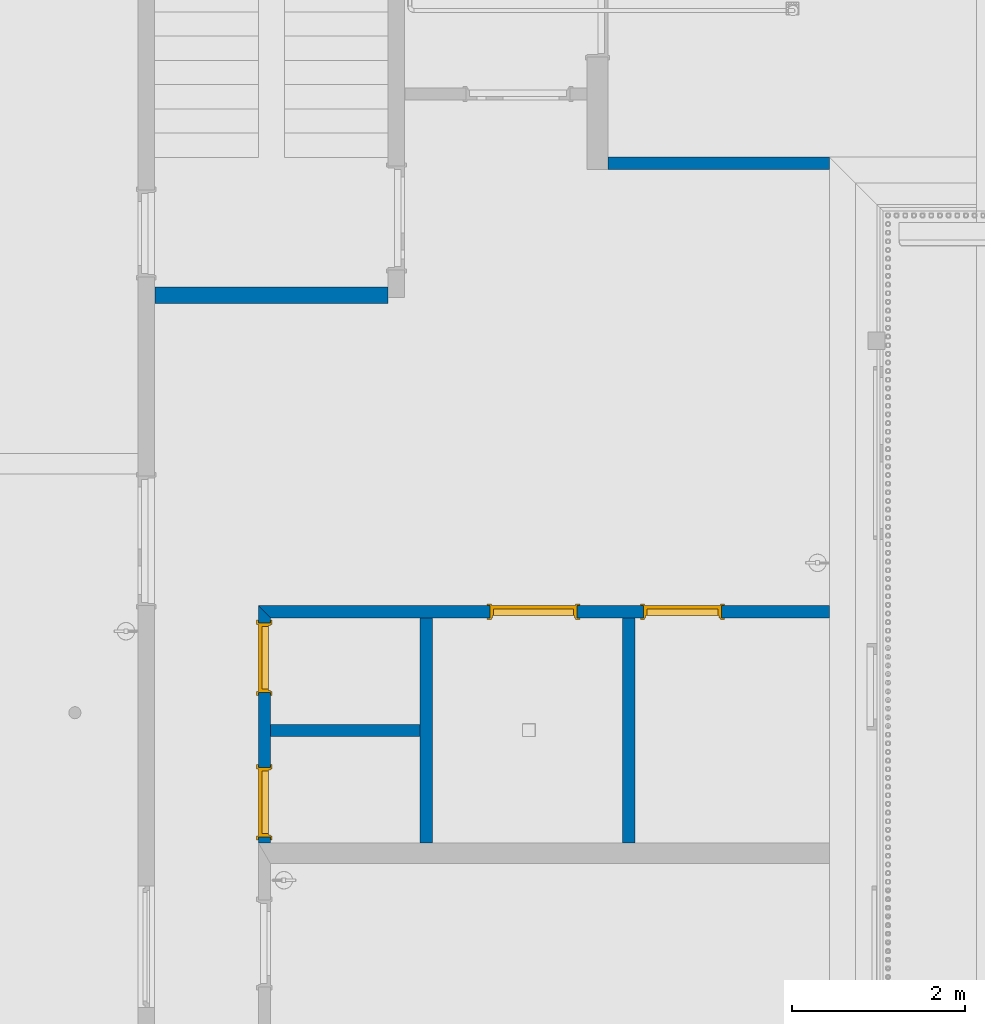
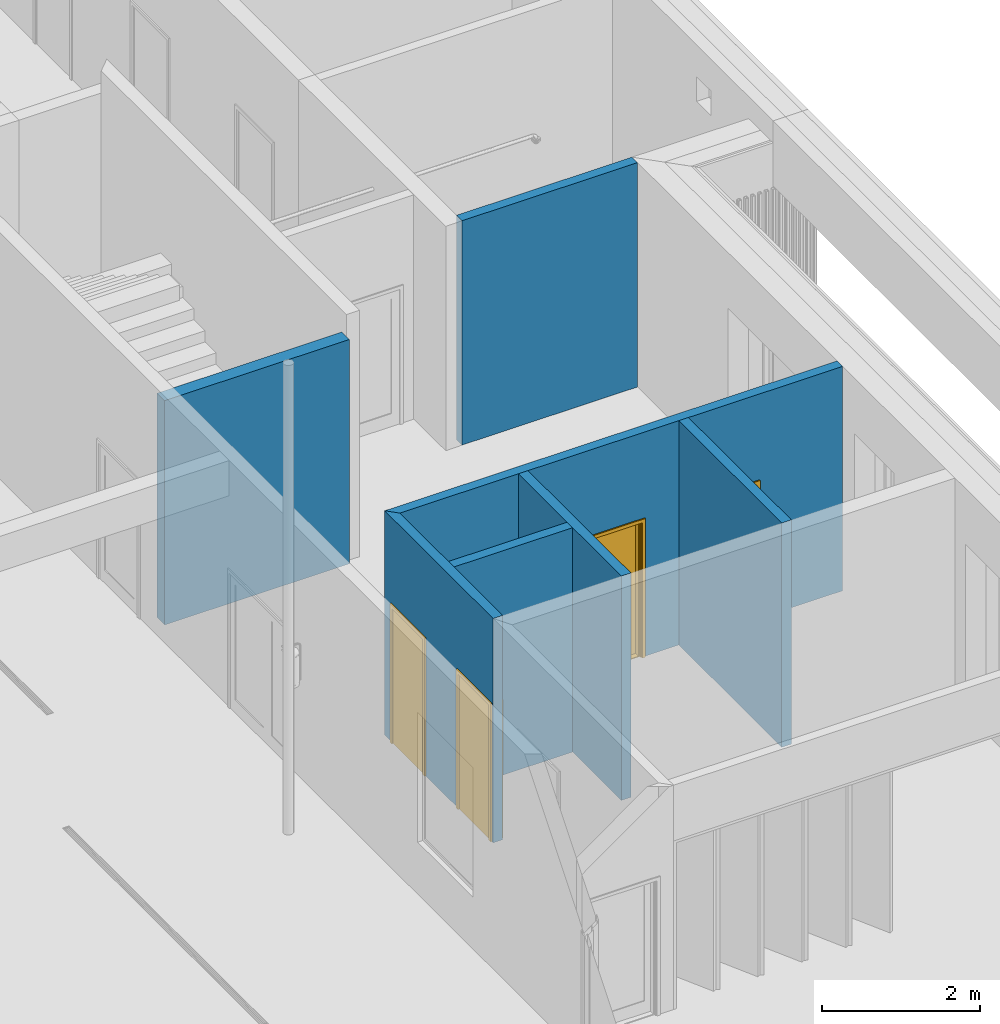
# One storey, part 13 of 112: 7 walls, 4 doors, 4 openings.
"""IFC2X3 building model written with IfcOpenShell, lengths in millimetres."""

from ifc_helpers import new_model, entity, si_unit, converted_unit, derived_unit, money_unit, direction, frame, origin_with_axes, origin_2d_with_axis, place, context, subcontext, project, spatial, polyline, rectangle, outline, extrude, faceted_brep, source, transform, mapped, material, layer, layer_set, layer_usage, type_object, element, fill, save


model = new_model("IFC2X3")

# Units and contexts
model_context = context("Model", 3, precision=0.01, world=origin_with_axes(), true_north=direction((0.0, 1.0)))
body_context = subcontext(model_context, "Body", "Model", "MODEL_VIEW")
ifc_project = project(units=[si_unit("LENGTHUNIT", "METRE", prefix="MILLI"), si_unit("AREAUNIT", "SQUARE_METRE"), si_unit("VOLUMEUNIT", "CUBIC_METRE"), converted_unit("PLANEANGLEUNIT", "DEGREE", entity("IfcPlaneAngleMeasure", 0.0174532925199), si_unit("PLANEANGLEUNIT", "RADIAN"), dimensions=[0, 0, 0, 0, 0, 0, 0]), si_unit("SOLIDANGLEUNIT", "STERADIAN"), money_unit("EUR"), converted_unit("TIMEUNIT", "Year", entity("IfcTimeMeasure", 31556926.0), si_unit("TIMEUNIT", "SECOND"), dimensions=[0, 0, 1, 0, 0, 0, 0]), si_unit("MASSUNIT", "GRAM", prefix="KILO"), si_unit("THERMODYNAMICTEMPERATUREUNIT", "DEGREE_CELSIUS"), si_unit("LUMINOUSINTENSITYUNIT", "LUMEN"), si_unit("ENERGYUNIT", "JOULE", prefix="MEGA"), derived_unit("THERMALCONDUCTANCEUNIT", [(si_unit("POWERUNIT", "WATT"), 1), (si_unit("LENGTHUNIT", "METRE"), -1), (si_unit("THERMODYNAMICTEMPERATUREUNIT", "KELVIN"), -1)]), derived_unit("SPECIFICHEATCAPACITYUNIT", [(si_unit("ENERGYUNIT", "JOULE"), 1), (si_unit("MASSUNIT", "GRAM", prefix="KILO"), -1), (si_unit("THERMODYNAMICTEMPERATUREUNIT", "KELVIN"), -1)]), derived_unit("MASSDENSITYUNIT", [(si_unit("MASSUNIT", "GRAM", prefix="KILO"), 1), (si_unit("VOLUMEUNIT", "CUBIC_METRE"), -1)])], contexts=[model_context])

# Site, building, storey
site_placement = place(None, origin_with_axes())
site = spatial("IfcSite", under=ifc_project, at=site_placement, Name="Politse- ja Piirivalveameti ning Päästeameti ühishoone", CompositionType="ELEMENT")
building_placement = place(site_placement, origin_with_axes())
building = spatial("IfcBuilding", under=site, at=building_placement, Name="Politse- ja Piirivalveameti ning Päästeameti ühishoone", CompositionType="ELEMENT")
storey_placement = place(building_placement, origin_with_axes())
storey = spatial("IfcBuildingStorey", under=building, at=storey_placement, Name="Esimene korrus", CompositionType="ELEMENT", Elevation=0.0)

# Walls
ifc_material = material(Name="KON-05_Betoon Plokk - Konstuktsioon")
ifc_layer_1 = layer(ifc_material, 190.0, ventilated="UNKNOWN")
ifc_layer_set_1 = layer_set([ifc_layer_1], Name="SS-03_Sisesein 190")
ifc_layer_usage_1 = layer_usage(ifc_layer_set_1, "AXIS2", "NEGATIVE", 0.0)
wall_type_1 = type_object("IfcWallType", Name="SS-03_Sisesein 190 190", PredefinedType="NOTDEFINED")
wall_1_placement = place(storey_placement, frame((60160.5519118, 14919.9520832, 0.0), z_axis=(0.0, 0.0, 1.0), x_axis=(1.0, 0.0, 0.0)))
element("IfcWallStandardCase", 1, at=wall_1_placement, inside=storey, type_object=wall_type_1, material=ifc_layer_usage_1, Name="SS-03", context=body_context, shape_type="SweptSolid", body=[
    extrude(outline(polyline([(5.0, -190.0), (2700.00534722, -190.0), (2700.00534722, 0.0), (5.0, 0.0), (5.0, -190.0)])), origin_with_axes(), (0.0, 0.0, 1.0), 3460.0),
])
ifc_layer_2 = layer(ifc_material, 140.0, ventilated="UNKNOWN")
ifc_layer_set_2 = layer_set([ifc_layer_2], Name="SS-02_Sisesein 140")
ifc_layer_usage_2 = layer_usage(ifc_layer_set_2, "AXIS2", "POSITIVE", -140.0)
wall_type_2 = type_object("IfcWallType", Name="SS-02_Sisesein 140 140", PredefinedType="NOTDEFINED")
wall_2_placement = place(storey_placement, frame((65570.5638285, 8500.01298611, 0.0), z_axis=(0.0, 0.0, 1.0), x_axis=(0.0, 1.0, 0.0)))
element("IfcWallStandardCase", 2, at=wall_2_placement, inside=storey, type_object=wall_type_2, material=ifc_layer_usage_2, Name="SS-02", context=body_context, shape_type="SweptSolid", body=[
    extrude(outline(polyline([(0.0, -140.0), (2600.0, -140.0), (2600.0, 0.0), (0.0, 0.0), (0.0, -140.0)])), origin_with_axes(), (0.0, 0.0, 1.0), 3460.0),
])
ifc_layer_usage_3 = layer_usage(ifc_layer_set_2, "AXIS2", "NEGATIVE", 140.0)
wall_3_placement = place(storey_placement, frame((67960.5638285, 16422.809139, 0.0), z_axis=(0.0, 0.0, 1.0), x_axis=(-1.0, 0.0, 0.0)))
element("IfcWallStandardCase", 3, at=wall_3_placement, inside=storey, type_object=wall_type_2, material=ifc_layer_usage_3, Name="SS-02", context=body_context, shape_type="SweptSolid", body=[
    extrude(outline(polyline([(0.0, 0.0), (2560.00427778, 0.0), (2560.00427778, 140.0), (0.0, 140.0), (0.0, 0.0)])), origin_with_axes(), (0.0, 0.0, 1.0), 3460.0),
])

# Wall, openings, doors
ifc_layer_usage_4 = layer_usage(ifc_layer_set_2, "AXIS2", "NEGATIVE", 0.0)
wall_4_placement = place(storey_placement, frame((67960.5638285, 11100.0129861, 0.0), z_axis=(0.0, 0.0, 1.0), x_axis=(-1.0, 0.0, 0.0)))
wall_4 = element("IfcWallStandardCase", 4, at=wall_4_placement, inside=storey, type_object=wall_type_2, material=ifc_layer_usage_4, Name="SS-02", context=body_context, shape_type="SweptSolid", body=[
    extrude(outline(polyline([(0.0, -140.0), (6600.01191667, -140.0), (6460.01191667, 0.0), (0.0, 0.0), (0.0, -140.0)])), origin_with_axes(), (0.0, 0.0, 1.0), 3460.0),
])
opening_1_placement = place(wall_4_placement, frame((3420.93126529, 0.0, 0.0), z_axis=(0.0, 0.0, 1.0), x_axis=(1.0, 0.0, 0.0)))
opening_1 = element("IfcOpeningElement", 5, at=opening_1_placement, cuts=wall_4, Name="SU-02-4", context=body_context, shape_type="SweptSolid", body=[
    extrude(rectangle(XDim=1000.0, YDim=2100.0, at=origin_2d_with_axis()), frame((0.0, 140.0, 1050.0), z_axis=(0.0, 1.0, 0.0), x_axis=(1.0, 0.0, 0.0)), (0.0, 0.0, -1.0), 420.0),
    extrude(rectangle(XDim=1074.0, YDim=2137.0, at=origin_2d_with_axis()), frame((0.0, 0.0, 1068.5), z_axis=(0.0, 1.0, 0.0), x_axis=(1.0, 0.0, 0.0)), (0.0, 0.0, 1.0), 140.0),
    extrude(rectangle(XDim=1074.0, YDim=2137.0, at=origin_2d_with_axis()), frame((0.0, -140.0, 1068.5), z_axis=(0.0, -1.0, 0.0), x_axis=(1.0, 0.0, 0.0)), (0.0, 0.0, 1.0), 140.0),
])
opening_2_placement = place(wall_4_placement, frame((1700.0, 0.0, 0.0), z_axis=(0.0, 0.0, 1.0), x_axis=(1.0, 0.0, 0.0)))
opening_2 = element("IfcOpeningElement", 6, at=opening_2_placement, cuts=wall_4, Name="SU-01-1", context=body_context, shape_type="SweptSolid", body=[
    extrude(rectangle(XDim=900.0, YDim=2100.0, at=origin_2d_with_axis()), frame((0.0, 140.0, 1050.0), z_axis=(0.0, 1.0, 0.0), x_axis=(1.0, 0.0, 0.0)), (0.0, 0.0, -1.0), 420.0),
    extrude(rectangle(XDim=974.0, YDim=2137.0, at=origin_2d_with_axis()), frame((0.0, 0.0, 1068.5), z_axis=(0.0, 1.0, 0.0), x_axis=(1.0, 0.0, 0.0)), (0.0, 0.0, 1.0), 140.0),
    extrude(rectangle(XDim=974.0, YDim=2137.0, at=origin_2d_with_axis()), frame((0.0, -140.0, 1068.5), z_axis=(0.0, -1.0, 0.0), x_axis=(1.0, 0.0, 0.0)), (0.0, 0.0, 1.0), 140.0),
])
door_style_1 = type_object("IfcDoorStyle", Name="Door 23", ConstructionType="NOTDEFINED", OperationType="SINGLE_SWING_LEFT", ParameterTakesPrecedence=False, Sizeable=False)
shared_shape_1 = source(origin_with_axes(), body_context, "Body", "Brep", [
    faceted_brep([(-472.0, -40.0, 0.0), (-460.0, -40.0, 0.0), (-460.0, -40.0, 12.0), (-472.0, -40.0, 12.0), (472.0, -40.0, 0.0), (460.0, -40.0, 0.0), (460.0, -115.0, 0.0), (-460.0, -115.0, 0.0), (-460.0, -115.0, 12.0), (460.0, -115.0, 12.0), (460.0, -40.0, 12.0), (472.0, -40.0, 12.0)], [[[0, 1, 2, 3]], [[0, 4, 5, 6, 7, 1]], [[1, 7, 8, 2]], [[3, 2, 8, 9, 10, 11]], [[4, 0, 3, 11]], [[5, 4, 11, 10]], [[6, 5, 10, 9]], [[7, 6, 9, 8]]]),
    faceted_brep([(500.0, -115.0, 0.0), (500.0, -140.0, 0.0), (475.0, -140.0, 0.0), (475.0, -115.0, 0.0), (500.0, -115.0, 2100.0), (500.0, -140.0, 2100.0), (475.0, -140.0, 2075.0), (475.0, -115.0, 2075.0)], [[[0, 1, 2, 3]], [[4, 5, 1, 0]], [[1, 5, 6, 2]], [[3, 2, 6, 7]], [[0, 3, 7, 4]], [[7, 6, 5, 4]]]),
    faceted_brep([(-500.0, -115.0, 2100.0), (-500.0, -140.0, 2100.0), (-475.0, -140.0, 2075.0), (-475.0, -115.0, 2075.0), (-500.0, -115.0, 0.0), (-500.0, -140.0, 0.0), (-475.0, -140.0, 0.0), (-475.0, -115.0, 0.0)], [[[0, 1, 2, 3]], [[4, 5, 1, 0]], [[1, 5, 6, 2]], [[3, 2, 6, 7]], [[0, 3, 7, 4]], [[7, 6, 5, 4]]]),
    faceted_brep([(475.0, -115.0, 2075.0), (475.0, -140.0, 2075.0), (-475.0, -140.0, 2075.0), (-475.0, -115.0, 2075.0), (500.0, -115.0, 2100.0), (500.0, -140.0, 2100.0), (-500.0, -140.0, 2100.0), (-500.0, -115.0, 2100.0)], [[[0, 1, 2, 3]], [[4, 5, 1, 0]], [[1, 5, 6, 2]], [[3, 2, 6, 7]], [[0, 3, 7, 4]], [[7, 6, 5, 4]]]),
    faceted_brep([(537.0, -159.0, 0.0), (487.0, -159.0, 0.0), (487.0, -140.0, 0.0), (537.0, -140.0, 0.0), (537.0, -159.0, 2137.0), (487.0, -159.0, 2087.0), (487.0, -140.0, 2087.0), (537.0, -140.0, 2137.0)], [[[0, 1, 2, 3]], [[0, 4, 5, 1]], [[1, 5, 6, 2]], [[3, 2, 6, 7]], [[4, 0, 3, 7]], [[5, 4, 7, 6]]]),
    faceted_brep([(-537.0, -159.0, 2137.0), (-487.0, -159.0, 2087.0), (-487.0, -140.0, 2087.0), (-537.0, -140.0, 2137.0), (-537.0, -159.0, 0.0), (-487.0, -159.0, 0.0), (-487.0, -140.0, 0.0), (-537.0, -140.0, 0.0)], [[[0, 1, 2, 3]], [[0, 4, 5, 1]], [[1, 5, 6, 2]], [[3, 2, 6, 7]], [[4, 0, 3, 7]], [[5, 4, 7, 6]]]),
    faceted_brep([(537.0, -159.0, 2137.0), (487.0, -159.0, 2087.0), (487.0, -140.0, 2087.0), (537.0, -140.0, 2137.0), (-537.0, -159.0, 2137.0), (-487.0, -159.0, 2087.0), (-487.0, -140.0, 2087.0), (-537.0, -140.0, 2137.0)], [[[0, 1, 2, 3]], [[0, 4, 5, 1]], [[1, 5, 6, 2]], [[3, 2, 6, 7]], [[4, 0, 3, 7]], [[5, 4, 7, 6]]]),
    faceted_brep([(537.0, 19.0, 0.0), (537.0, 0.0, 0.0), (487.0, 0.0, 0.0), (487.0, 19.0, 0.0), (537.0, 19.0, 2137.0), (537.0, 0.0, 2137.0), (487.0, 0.0, 2087.0), (487.0, 19.0, 2087.0)], [[[0, 1, 2, 3]], [[4, 5, 1, 0]], [[1, 5, 6, 2]], [[3, 2, 6, 7]], [[0, 3, 7, 4]], [[7, 6, 5, 4]]]),
    faceted_brep([(-537.0, 19.0, 2137.0), (-537.0, 0.0, 2137.0), (-487.0, 0.0, 2087.0), (-487.0, 19.0, 2087.0), (-537.0, 19.0, 0.0), (-537.0, 0.0, 0.0), (-487.0, 0.0, 0.0), (-487.0, 19.0, 0.0)], [[[0, 1, 2, 3]], [[4, 5, 1, 0]], [[1, 5, 6, 2]], [[3, 2, 6, 7]], [[0, 3, 7, 4]], [[7, 6, 5, 4]]]),
    faceted_brep([(537.0, 19.0, 2137.0), (537.0, 0.0, 2137.0), (487.0, 0.0, 2087.0), (487.0, 19.0, 2087.0), (-537.0, 19.0, 2137.0), (-537.0, 0.0, 2137.0), (-487.0, 0.0, 2087.0), (-487.0, 19.0, 2087.0)], [[[0, 1, 2, 3]], [[4, 5, 1, 0]], [[1, 5, 6, 2]], [[3, 2, 6, 7]], [[0, 3, 7, 4]], [[7, 6, 5, 4]]]),
    faceted_brep([(460.0, -40.0, 0.0), (460.0, -115.0, 0.0), (460.0, -115.0, 2060.0), (460.0, -40.0, 2060.0), (472.0, -40.0, 0.0), (472.0, 0.0, 0.0), (500.0, 0.0, 0.0), (500.0, -115.0, 0.0), (500.0, -115.0, 2060.0), (472.0, -40.0, 2060.0), (500.0, 0.0, 2060.0), (472.0, 0.0, 2060.0)], [[[0, 1, 2, 3]], [[4, 5, 6, 7, 1, 0]], [[1, 7, 8, 2]], [[9, 3, 2, 8, 10, 11]], [[9, 4, 0, 3]], [[11, 5, 4, 9]], [[11, 10, 6, 5]], [[6, 10, 8, 7]]]),
    faceted_brep([(-472.0, -40.0, 2060.0), (-472.0, 0.0, 2060.0), (-500.0, 0.0, 2060.0), (-500.0, -115.0, 2060.0), (-460.0, -115.0, 2060.0), (-460.0, -40.0, 2060.0), (-472.0, -40.0, 0.0), (-472.0, 0.0, 0.0), (-500.0, 0.0, 0.0), (-500.0, -115.0, 0.0), (-460.0, -115.0, 0.0), (-460.0, -40.0, 0.0)], [[[0, 1, 2, 3, 4, 5]], [[0, 6, 7, 1]], [[7, 8, 2, 1]], [[2, 8, 9, 3]], [[3, 9, 10, 4]], [[5, 4, 10, 11]], [[5, 11, 6, 0]], [[6, 11, 10, 9, 8, 7]]]),
    faceted_brep([(472.0, 0.0, 2072.0), (-472.0, 0.0, 2072.0), (-472.0, 0.0, 2060.0), (-500.0, 0.0, 2060.0), (-500.0, 0.0, 2100.0), (500.0, 0.0, 2100.0), (500.0, 0.0, 2060.0), (472.0, 0.0, 2060.0), (472.0, -40.0, 2072.0), (-472.0, -40.0, 2072.0), (-472.0, -40.0, 2060.0), (-460.0, -40.0, 2060.0), (-460.0, -115.0, 2060.0), (-500.0, -115.0, 2060.0), (-500.0, -115.0, 2100.0), (500.0, -115.0, 2100.0), (500.0, -115.0, 2060.0), (472.0, -40.0, 2060.0), (460.0, -115.0, 2060.0), (460.0, -40.0, 2060.0)], [[[0, 1, 2, 3, 4, 5, 6, 7]], [[0, 8, 9, 1]], [[1, 9, 10, 2]], [[10, 11, 12, 13, 3, 2]], [[4, 3, 13, 14]], [[5, 4, 14, 15]], [[6, 5, 15, 16]], [[17, 7, 6, 16, 18, 19]], [[7, 17, 8, 0]], [[10, 9, 8, 17, 19, 11]], [[19, 18, 12, 11]], [[12, 18, 16, 15, 14, 13]]]),
    faceted_brep([(-472.0, 0.0, 0.0), (472.0, 0.0, 0.0), (472.0, -40.0, 0.0), (-472.0, -40.0, 0.0), (-472.0, 0.0, 2072.0), (472.0, 0.0, 2072.0), (472.0, -40.0, 2072.0), (-472.0, -40.0, 2072.0)], [[[0, 1, 2, 3]], [[0, 4, 5, 1]], [[1, 5, 6, 2]], [[3, 2, 6, 7]], [[4, 0, 3, 7]], [[5, 4, 7, 6]]]),
])
door_1_placement = place(opening_1_placement, frame((500.0, 0.0, 0.0), z_axis=(0.0, 0.0, 1.0), x_axis=(-1.0, 0.0, 0.0)))
door_1 = element("IfcDoor", 7, at=door_1_placement, inside=storey, type_object=door_style_1, Name="SU-02-4", ObjectType="DOOR", OverallHeight=2100.0, OverallWidth=1000.0, context=body_context, shape_type="MappedRepresentation", body=[
    mapped(shared_shape_1, transform((500.0, 140.0, 0.0))),
])
fill(opening_1, door_1)
shared_shape_2 = source(origin_with_axes(), body_context, "Body", "Brep", [
    faceted_brep([(-422.0, -40.0, 0.0), (-410.0, -40.0, 0.0), (-410.0, -40.0, 12.0), (-422.0, -40.0, 12.0), (422.0, -40.0, 0.0), (410.0, -40.0, 0.0), (410.0, -115.0, 0.0), (-410.0, -115.0, 0.0), (-410.0, -115.0, 12.0), (410.0, -115.0, 12.0), (410.0, -40.0, 12.0), (422.0, -40.0, 12.0)], [[[0, 1, 2, 3]], [[0, 4, 5, 6, 7, 1]], [[1, 7, 8, 2]], [[3, 2, 8, 9, 10, 11]], [[4, 0, 3, 11]], [[5, 4, 11, 10]], [[6, 5, 10, 9]], [[7, 6, 9, 8]]]),
    faceted_brep([(450.0, -115.0, 0.0), (450.0, -140.0, 0.0), (425.0, -140.0, 0.0), (425.0, -115.0, 0.0), (450.0, -115.0, 2100.0), (450.0, -140.0, 2100.0), (425.0, -140.0, 2075.0), (425.0, -115.0, 2075.0)], [[[0, 1, 2, 3]], [[4, 5, 1, 0]], [[1, 5, 6, 2]], [[3, 2, 6, 7]], [[0, 3, 7, 4]], [[7, 6, 5, 4]]]),
    faceted_brep([(-450.0, -115.0, 2100.0), (-450.0, -140.0, 2100.0), (-425.0, -140.0, 2075.0), (-425.0, -115.0, 2075.0), (-450.0, -115.0, 0.0), (-450.0, -140.0, 0.0), (-425.0, -140.0, 0.0), (-425.0, -115.0, 0.0)], [[[0, 1, 2, 3]], [[4, 5, 1, 0]], [[1, 5, 6, 2]], [[3, 2, 6, 7]], [[0, 3, 7, 4]], [[7, 6, 5, 4]]]),
    faceted_brep([(425.0, -115.0, 2075.0), (425.0, -140.0, 2075.0), (-425.0, -140.0, 2075.0), (-425.0, -115.0, 2075.0), (450.0, -115.0, 2100.0), (450.0, -140.0, 2100.0), (-450.0, -140.0, 2100.0), (-450.0, -115.0, 2100.0)], [[[0, 1, 2, 3]], [[4, 5, 1, 0]], [[1, 5, 6, 2]], [[3, 2, 6, 7]], [[0, 3, 7, 4]], [[7, 6, 5, 4]]]),
    faceted_brep([(487.0, -159.0, 0.0), (437.0, -159.0, 0.0), (437.0, -140.0, 0.0), (487.0, -140.0, 0.0), (487.0, -159.0, 2137.0), (437.0, -159.0, 2087.0), (437.0, -140.0, 2087.0), (487.0, -140.0, 2137.0)], [[[0, 1, 2, 3]], [[0, 4, 5, 1]], [[1, 5, 6, 2]], [[3, 2, 6, 7]], [[4, 0, 3, 7]], [[5, 4, 7, 6]]]),
    faceted_brep([(-487.0, -159.0, 2137.0), (-437.0, -159.0, 2087.0), (-437.0, -140.0, 2087.0), (-487.0, -140.0, 2137.0), (-487.0, -159.0, 0.0), (-437.0, -159.0, 0.0), (-437.0, -140.0, 0.0), (-487.0, -140.0, 0.0)], [[[0, 1, 2, 3]], [[0, 4, 5, 1]], [[1, 5, 6, 2]], [[3, 2, 6, 7]], [[4, 0, 3, 7]], [[5, 4, 7, 6]]]),
    faceted_brep([(487.0, -159.0, 2137.0), (437.0, -159.0, 2087.0), (437.0, -140.0, 2087.0), (487.0, -140.0, 2137.0), (-487.0, -159.0, 2137.0), (-437.0, -159.0, 2087.0), (-437.0, -140.0, 2087.0), (-487.0, -140.0, 2137.0)], [[[0, 1, 2, 3]], [[0, 4, 5, 1]], [[1, 5, 6, 2]], [[3, 2, 6, 7]], [[4, 0, 3, 7]], [[5, 4, 7, 6]]]),
    faceted_brep([(487.0, 19.0, 0.0), (487.0, 0.0, 0.0), (437.0, 0.0, 0.0), (437.0, 19.0, 0.0), (487.0, 19.0, 2137.0), (487.0, 0.0, 2137.0), (437.0, 0.0, 2087.0), (437.0, 19.0, 2087.0)], [[[0, 1, 2, 3]], [[4, 5, 1, 0]], [[1, 5, 6, 2]], [[3, 2, 6, 7]], [[0, 3, 7, 4]], [[7, 6, 5, 4]]]),
    faceted_brep([(-487.0, 19.0, 2137.0), (-487.0, 0.0, 2137.0), (-437.0, 0.0, 2087.0), (-437.0, 19.0, 2087.0), (-487.0, 19.0, 0.0), (-487.0, 0.0, 0.0), (-437.0, 0.0, 0.0), (-437.0, 19.0, 0.0)], [[[0, 1, 2, 3]], [[4, 5, 1, 0]], [[1, 5, 6, 2]], [[3, 2, 6, 7]], [[0, 3, 7, 4]], [[7, 6, 5, 4]]]),
    faceted_brep([(487.0, 19.0, 2137.0), (487.0, 0.0, 2137.0), (437.0, 0.0, 2087.0), (437.0, 19.0, 2087.0), (-487.0, 19.0, 2137.0), (-487.0, 0.0, 2137.0), (-437.0, 0.0, 2087.0), (-437.0, 19.0, 2087.0)], [[[0, 1, 2, 3]], [[4, 5, 1, 0]], [[1, 5, 6, 2]], [[3, 2, 6, 7]], [[0, 3, 7, 4]], [[7, 6, 5, 4]]]),
    faceted_brep([(410.0, -40.0, 0.0), (410.0, -115.0, 0.0), (410.0, -115.0, 2060.0), (410.0, -40.0, 2060.0), (422.0, -40.0, 0.0), (422.0, 0.0, 0.0), (450.0, 0.0, 0.0), (450.0, -115.0, 0.0), (450.0, -115.0, 2060.0), (422.0, -40.0, 2060.0), (450.0, 0.0, 2060.0), (422.0, 0.0, 2060.0)], [[[0, 1, 2, 3]], [[4, 5, 6, 7, 1, 0]], [[1, 7, 8, 2]], [[9, 3, 2, 8, 10, 11]], [[9, 4, 0, 3]], [[11, 5, 4, 9]], [[11, 10, 6, 5]], [[6, 10, 8, 7]]]),
    faceted_brep([(-422.0, -40.0, 2060.0), (-422.0, 0.0, 2060.0), (-450.0, 0.0, 2060.0), (-450.0, -115.0, 2060.0), (-410.0, -115.0, 2060.0), (-410.0, -40.0, 2060.0), (-422.0, -40.0, 0.0), (-422.0, 0.0, 0.0), (-450.0, 0.0, 0.0), (-450.0, -115.0, 0.0), (-410.0, -115.0, 0.0), (-410.0, -40.0, 0.0)], [[[0, 1, 2, 3, 4, 5]], [[0, 6, 7, 1]], [[7, 8, 2, 1]], [[2, 8, 9, 3]], [[3, 9, 10, 4]], [[5, 4, 10, 11]], [[5, 11, 6, 0]], [[6, 11, 10, 9, 8, 7]]]),
    faceted_brep([(422.0, 0.0, 2072.0), (-422.0, 0.0, 2072.0), (-422.0, 0.0, 2060.0), (-450.0, 0.0, 2060.0), (-450.0, 0.0, 2100.0), (450.0, 0.0, 2100.0), (450.0, 0.0, 2060.0), (422.0, 0.0, 2060.0), (422.0, -40.0, 2072.0), (-422.0, -40.0, 2072.0), (-422.0, -40.0, 2060.0), (-410.0, -40.0, 2060.0), (-410.0, -115.0, 2060.0), (-450.0, -115.0, 2060.0), (-450.0, -115.0, 2100.0), (450.0, -115.0, 2100.0), (450.0, -115.0, 2060.0), (422.0, -40.0, 2060.0), (410.0, -115.0, 2060.0), (410.0, -40.0, 2060.0)], [[[0, 1, 2, 3, 4, 5, 6, 7]], [[0, 8, 9, 1]], [[1, 9, 10, 2]], [[10, 11, 12, 13, 3, 2]], [[4, 3, 13, 14]], [[5, 4, 14, 15]], [[6, 5, 15, 16]], [[17, 7, 6, 16, 18, 19]], [[7, 17, 8, 0]], [[10, 9, 8, 17, 19, 11]], [[19, 18, 12, 11]], [[12, 18, 16, 15, 14, 13]]]),
    faceted_brep([(-422.0, 0.0, 0.0), (422.0, 0.0, 0.0), (422.0, -40.0, 0.0), (-422.0, -40.0, 0.0), (-422.0, 0.0, 2072.0), (422.0, 0.0, 2072.0), (422.0, -40.0, 2072.0), (-422.0, -40.0, 2072.0)], [[[0, 1, 2, 3]], [[0, 4, 5, 1]], [[1, 5, 6, 2]], [[3, 2, 6, 7]], [[4, 0, 3, 7]], [[5, 4, 7, 6]]]),
])
door_2_placement = place(opening_2_placement, frame((450.0, 0.0, 0.0), z_axis=(0.0, 0.0, 1.0), x_axis=(-1.0, 0.0, 0.0)))
door_2 = element("IfcDoor", 8, at=door_2_placement, inside=storey, type_object=door_style_1, Name="SU-01-1", ObjectType="DOOR", OverallHeight=2100.0, OverallWidth=900.0, context=body_context, shape_type="MappedRepresentation", body=[
    mapped(shared_shape_2, transform((450.0, 140.0, 0.0))),
])
fill(opening_2, door_2)

# Walls
ifc_layer_usage_5 = layer_usage(ifc_layer_set_2, "AXIS2", "NEGATIVE", 140.0)
wall_5_placement = place(storey_placement, frame((63370.5638285, 8500.01298611, 0.0), z_axis=(0.0, 0.0, 1.0), x_axis=(0.0, 1.0, 0.0)))
element("IfcWallStandardCase", 9, at=wall_5_placement, inside=storey, type_object=wall_type_2, material=ifc_layer_usage_5, Name="SS-02", context=body_context, shape_type="SweptSolid", body=[
    extrude(outline(polyline([(0.0, 0.0), (2600.0, 0.0), (2600.0, 140.0), (0.0, 140.0), (0.0, 0.0)])), origin_with_axes(), (0.0, 0.0, 1.0), 3460.0),
])
ifc_layer_usage_6 = layer_usage(ifc_layer_set_2, "AXIS2", "POSITIVE", -70.0)
wall_6_placement = place(storey_placement, frame((63370.5638285, 9800.01298611, 0.0), z_axis=(0.0, 0.0, 1.0), x_axis=(-1.0, 0.0, 0.0)))
element("IfcWallStandardCase", 10, at=wall_6_placement, inside=storey, type_object=wall_type_2, material=ifc_layer_usage_6, Name="SS-02", context=body_context, shape_type="SweptSolid", body=[
    extrude(outline(polyline([(140.0, -70.0), (1870.01191667, -70.0), (1870.01191667, 70.0), (140.0, 70.0), (140.0, -70.0)])), origin_with_axes(), (0.0, 0.0, 1.0), 3460.0),
])

# Wall, openings, doors
ifc_layer_usage_7 = layer_usage(ifc_layer_set_2, "AXIS2", "NEGATIVE", 140.0)
wall_7_placement = place(storey_placement, frame((61500.5519118, 8500.01298611, 0.0), z_axis=(0.0, 0.0, 1.0), x_axis=(0.0, 1.0, 0.0)))
wall_7 = element("IfcWallStandardCase", 11, at=wall_7_placement, inside=storey, type_object=wall_type_2, material=ifc_layer_usage_7, Name="SS-02", context=body_context, shape_type="SweptSolid", body=[
    extrude(outline(polyline([(0.0, 0.0), (2600.0, 0.0), (2740.0, 140.0), (0.0, 140.0), (0.0, 0.0)])), origin_with_axes(), (0.0, 0.0, 1.0), 3460.0),
])
opening_3_placement = place(wall_7_placement, frame((468.272031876, 0.0, 0.0), z_axis=(0.0, 0.0, 1.0), x_axis=(1.0, 0.0, 0.0)))
opening_3 = element("IfcOpeningElement", 12, at=opening_3_placement, cuts=wall_7, Name="SU-02-1", context=body_context, shape_type="SweptSolid", body=[
    extrude(rectangle(XDim=800.0, YDim=2100.0, at=origin_2d_with_axis()), frame((0.0, -140.0, 1050.0), z_axis=(0.0, -1.0, 0.0), x_axis=(-1.0, 0.0, 0.0)), (0.0, 0.0, -1.0), 420.0),
    extrude(rectangle(XDim=874.0, YDim=2137.0, at=origin_2d_with_axis()), frame((0.0, 0.0, 1068.5), z_axis=(0.0, -1.0, 0.0), x_axis=(-1.0, 0.0, 0.0)), (0.0, 0.0, 1.0), 140.0),
    extrude(rectangle(XDim=874.0, YDim=2137.0, at=origin_2d_with_axis()), frame((0.0, 140.0, 1068.5), z_axis=(0.0, 1.0, 0.0), x_axis=(-1.0, 0.0, 0.0)), (0.0, 0.0, 1.0), 140.0),
])
opening_4_placement = place(wall_7_placement, frame((2137.65197882, 0.0, 0.0), z_axis=(0.0, 0.0, 1.0), x_axis=(1.0, 0.0, 0.0)))
opening_4 = element("IfcOpeningElement", 13, at=opening_4_placement, cuts=wall_7, Name="SU-02-1", context=body_context, shape_type="SweptSolid", body=[
    extrude(rectangle(XDim=800.0, YDim=2100.0, at=origin_2d_with_axis()), frame((0.0, -140.0, 1050.0), z_axis=(0.0, -1.0, 0.0), x_axis=(-1.0, 0.0, 0.0)), (0.0, 0.0, -1.0), 420.0),
    extrude(rectangle(XDim=874.0, YDim=2137.0, at=origin_2d_with_axis()), frame((0.0, 0.0, 1068.5), z_axis=(0.0, -1.0, 0.0), x_axis=(-1.0, 0.0, 0.0)), (0.0, 0.0, 1.0), 140.0),
    extrude(rectangle(XDim=874.0, YDim=2137.0, at=origin_2d_with_axis()), frame((0.0, 140.0, 1068.5), z_axis=(0.0, 1.0, 0.0), x_axis=(-1.0, 0.0, 0.0)), (0.0, 0.0, 1.0), 140.0),
])
door_style_2 = type_object("IfcDoorStyle", Name="Door 23", ConstructionType="NOTDEFINED", OperationType="SINGLE_SWING_LEFT", ParameterTakesPrecedence=False, Sizeable=False)
shared_shape_3 = source(origin_with_axes(), body_context, "Body", "Brep", [
    faceted_brep([(-372.0, -40.0, 0.0), (-360.0, -40.0, 0.0), (-360.0, -40.0, 12.0), (-372.0, -40.0, 12.0), (372.0, -40.0, 0.0), (360.0, -40.0, 0.0), (360.0, -115.0, 0.0), (-360.0, -115.0, 0.0), (-360.0, -115.0, 12.0), (360.0, -115.0, 12.0), (360.0, -40.0, 12.0), (372.0, -40.0, 12.0)], [[[0, 1, 2, 3]], [[0, 4, 5, 6, 7, 1]], [[1, 7, 8, 2]], [[3, 2, 8, 9, 10, 11]], [[4, 0, 3, 11]], [[5, 4, 11, 10]], [[6, 5, 10, 9]], [[7, 6, 9, 8]]]),
    faceted_brep([(400.0, -115.0, 0.0), (400.0, -140.0, 0.0), (375.0, -140.0, 0.0), (375.0, -115.0, 0.0), (400.0, -115.0, 2100.0), (400.0, -140.0, 2100.0), (375.0, -140.0, 2075.0), (375.0, -115.0, 2075.0)], [[[0, 1, 2, 3]], [[4, 5, 1, 0]], [[1, 5, 6, 2]], [[3, 2, 6, 7]], [[0, 3, 7, 4]], [[7, 6, 5, 4]]]),
    faceted_brep([(-400.0, -115.0, 2100.0), (-400.0, -140.0, 2100.0), (-375.0, -140.0, 2075.0), (-375.0, -115.0, 2075.0), (-400.0, -115.0, 0.0), (-400.0, -140.0, 0.0), (-375.0, -140.0, 0.0), (-375.0, -115.0, 0.0)], [[[0, 1, 2, 3]], [[4, 5, 1, 0]], [[1, 5, 6, 2]], [[3, 2, 6, 7]], [[0, 3, 7, 4]], [[7, 6, 5, 4]]]),
    faceted_brep([(375.0, -115.0, 2075.0), (375.0, -140.0, 2075.0), (-375.0, -140.0, 2075.0), (-375.0, -115.0, 2075.0), (400.0, -115.0, 2100.0), (400.0, -140.0, 2100.0), (-400.0, -140.0, 2100.0), (-400.0, -115.0, 2100.0)], [[[0, 1, 2, 3]], [[4, 5, 1, 0]], [[1, 5, 6, 2]], [[3, 2, 6, 7]], [[0, 3, 7, 4]], [[7, 6, 5, 4]]]),
    faceted_brep([(437.0, -159.0, 0.0), (387.0, -159.0, 0.0), (387.0, -140.0, 0.0), (437.0, -140.0, 0.0), (437.0, -159.0, 2137.0), (387.0, -159.0, 2087.0), (387.0, -140.0, 2087.0), (437.0, -140.0, 2137.0)], [[[0, 1, 2, 3]], [[0, 4, 5, 1]], [[1, 5, 6, 2]], [[3, 2, 6, 7]], [[4, 0, 3, 7]], [[5, 4, 7, 6]]]),
    faceted_brep([(-437.0, -159.0, 2137.0), (-387.0, -159.0, 2087.0), (-387.0, -140.0, 2087.0), (-437.0, -140.0, 2137.0), (-437.0, -159.0, 0.0), (-387.0, -159.0, 0.0), (-387.0, -140.0, 0.0), (-437.0, -140.0, 0.0)], [[[0, 1, 2, 3]], [[0, 4, 5, 1]], [[1, 5, 6, 2]], [[3, 2, 6, 7]], [[4, 0, 3, 7]], [[5, 4, 7, 6]]]),
    faceted_brep([(437.0, -159.0, 2137.0), (387.0, -159.0, 2087.0), (387.0, -140.0, 2087.0), (437.0, -140.0, 2137.0), (-437.0, -159.0, 2137.0), (-387.0, -159.0, 2087.0), (-387.0, -140.0, 2087.0), (-437.0, -140.0, 2137.0)], [[[0, 1, 2, 3]], [[0, 4, 5, 1]], [[1, 5, 6, 2]], [[3, 2, 6, 7]], [[4, 0, 3, 7]], [[5, 4, 7, 6]]]),
    faceted_brep([(437.0, 19.0, 0.0), (437.0, 0.0, 0.0), (387.0, 0.0, 0.0), (387.0, 19.0, 0.0), (437.0, 19.0, 2137.0), (437.0, 0.0, 2137.0), (387.0, 0.0, 2087.0), (387.0, 19.0, 2087.0)], [[[0, 1, 2, 3]], [[4, 5, 1, 0]], [[1, 5, 6, 2]], [[3, 2, 6, 7]], [[0, 3, 7, 4]], [[7, 6, 5, 4]]]),
    faceted_brep([(-437.0, 19.0, 2137.0), (-437.0, 0.0, 2137.0), (-387.0, 0.0, 2087.0), (-387.0, 19.0, 2087.0), (-437.0, 19.0, 0.0), (-437.0, 0.0, 0.0), (-387.0, 0.0, 0.0), (-387.0, 19.0, 0.0)], [[[0, 1, 2, 3]], [[4, 5, 1, 0]], [[1, 5, 6, 2]], [[3, 2, 6, 7]], [[0, 3, 7, 4]], [[7, 6, 5, 4]]]),
    faceted_brep([(437.0, 19.0, 2137.0), (437.0, 0.0, 2137.0), (387.0, 0.0, 2087.0), (387.0, 19.0, 2087.0), (-437.0, 19.0, 2137.0), (-437.0, 0.0, 2137.0), (-387.0, 0.0, 2087.0), (-387.0, 19.0, 2087.0)], [[[0, 1, 2, 3]], [[4, 5, 1, 0]], [[1, 5, 6, 2]], [[3, 2, 6, 7]], [[0, 3, 7, 4]], [[7, 6, 5, 4]]]),
    faceted_brep([(360.0, -40.0, 0.0), (360.0, -115.0, 0.0), (360.0, -115.0, 2060.0), (360.0, -40.0, 2060.0), (372.0, -40.0, 0.0), (372.0, 0.0, 0.0), (400.0, 0.0, 0.0), (400.0, -115.0, 0.0), (400.0, -115.0, 2060.0), (372.0, -40.0, 2060.0), (400.0, 0.0, 2060.0), (372.0, 0.0, 2060.0)], [[[0, 1, 2, 3]], [[4, 5, 6, 7, 1, 0]], [[1, 7, 8, 2]], [[9, 3, 2, 8, 10, 11]], [[9, 4, 0, 3]], [[11, 5, 4, 9]], [[11, 10, 6, 5]], [[6, 10, 8, 7]]]),
    faceted_brep([(-372.0, -40.0, 2060.0), (-372.0, 0.0, 2060.0), (-400.0, 0.0, 2060.0), (-400.0, -115.0, 2060.0), (-360.0, -115.0, 2060.0), (-360.0, -40.0, 2060.0), (-372.0, -40.0, 0.0), (-372.0, 0.0, 0.0), (-400.0, 0.0, 0.0), (-400.0, -115.0, 0.0), (-360.0, -115.0, 0.0), (-360.0, -40.0, 0.0)], [[[0, 1, 2, 3, 4, 5]], [[0, 6, 7, 1]], [[7, 8, 2, 1]], [[2, 8, 9, 3]], [[3, 9, 10, 4]], [[5, 4, 10, 11]], [[5, 11, 6, 0]], [[6, 11, 10, 9, 8, 7]]]),
    faceted_brep([(372.0, 0.0, 2072.0), (-372.0, 0.0, 2072.0), (-372.0, 0.0, 2060.0), (-400.0, 0.0, 2060.0), (-400.0, 0.0, 2100.0), (400.0, 0.0, 2100.0), (400.0, 0.0, 2060.0), (372.0, 0.0, 2060.0), (372.0, -40.0, 2072.0), (-372.0, -40.0, 2072.0), (-372.0, -40.0, 2060.0), (-360.0, -40.0, 2060.0), (-360.0, -115.0, 2060.0), (-400.0, -115.0, 2060.0), (-400.0, -115.0, 2100.0), (400.0, -115.0, 2100.0), (400.0, -115.0, 2060.0), (372.0, -40.0, 2060.0), (360.0, -115.0, 2060.0), (360.0, -40.0, 2060.0)], [[[0, 1, 2, 3, 4, 5, 6, 7]], [[0, 8, 9, 1]], [[1, 9, 10, 2]], [[10, 11, 12, 13, 3, 2]], [[4, 3, 13, 14]], [[5, 4, 14, 15]], [[6, 5, 15, 16]], [[17, 7, 6, 16, 18, 19]], [[7, 17, 8, 0]], [[10, 9, 8, 17, 19, 11]], [[19, 18, 12, 11]], [[12, 18, 16, 15, 14, 13]]]),
    faceted_brep([(-372.0, 0.0, 0.0), (372.0, 0.0, 0.0), (372.0, -40.0, 0.0), (-372.0, -40.0, 0.0), (-372.0, 0.0, 2072.0), (372.0, 0.0, 2072.0), (372.0, -40.0, 2072.0), (-372.0, -40.0, 2072.0)], [[[0, 1, 2, 3]], [[0, 4, 5, 1]], [[1, 5, 6, 2]], [[3, 2, 6, 7]], [[4, 0, 3, 7]], [[5, 4, 7, 6]]]),
])
door_3_placement = place(opening_3_placement, frame((-400.0, 0.0, 0.0), z_axis=(0.0, 0.0, 1.0), x_axis=(1.0, 0.0, 0.0)))
door_3 = element("IfcDoor", 14, at=door_3_placement, inside=storey, type_object=door_style_2, Name="SU-02-1", ObjectType="DOOR", OverallHeight=2100.0, OverallWidth=800.0, context=body_context, shape_type="MappedRepresentation", body=[
    mapped(shared_shape_3, transform((400.0, 140.0, 0.0))),
])
fill(opening_3, door_3)
door_4_placement = place(opening_4_placement, frame((-400.0, 0.0, 0.0), z_axis=(0.0, 0.0, 1.0), x_axis=(1.0, 0.0, 0.0)))
door_4 = element("IfcDoor", 15, at=door_4_placement, inside=storey, type_object=door_style_2, Name="SU-02-1", ObjectType="DOOR", OverallHeight=2100.0, OverallWidth=800.0, context=body_context, shape_type="MappedRepresentation", body=[
    mapped(shared_shape_3, transform((400.0, 140.0, 0.0))),
])
fill(opening_4, door_4)

save(model, "model.ifc")
